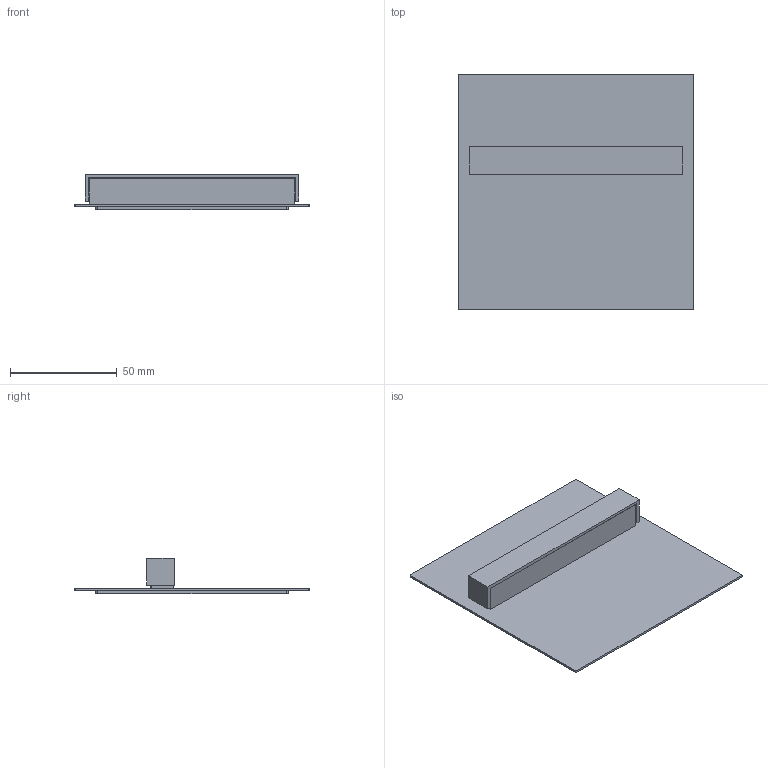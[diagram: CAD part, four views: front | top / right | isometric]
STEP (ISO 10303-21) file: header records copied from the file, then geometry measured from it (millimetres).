
FILE_DESCRIPTION(/* description */ (''),/* implementation_level */ '2;1');
FILE_NAME(/* name */ 'NUIT.stp',/* time_stamp */ '2024-02-20T17:07:36+01:00',/* author */ ('n.bisotti'),/* organization */ (''),/* preprocessor_version */ 'ST-DEVELOPER v19.2',/* originating_system */ 'Autodesk Inventor 2023',/* authorisation */ '');
FILE_SCHEMA (('AUTOMOTIVE_DESIGN { 1 0 10303 214 3 1 1 }'));
Length unit declared in the file: centimetre
Products named in the file (1): Parte1
Bounding box: 110 x 110 x 16.5 mm (x, y, z)
Volume: 39925 mm3; surface area: 50554.9 mm2
Topology: 4 solids, 4 shells, 54 faces, 130 edges, 86 vertices
Faces by surface type: plane 36, cylinder 16, cone 2
Full cylindrical faces by diameter (mm): 2.5 x2
Entity records: 1679 total; most frequent: DIRECTION 270, CARTESIAN_POINT 269, ORIENTED_EDGE 256, EDGE_CURVE 128, LINE 96, VECTOR 96, AXIS2_PLACEMENT_3D 87, VERTEX_POINT 86
